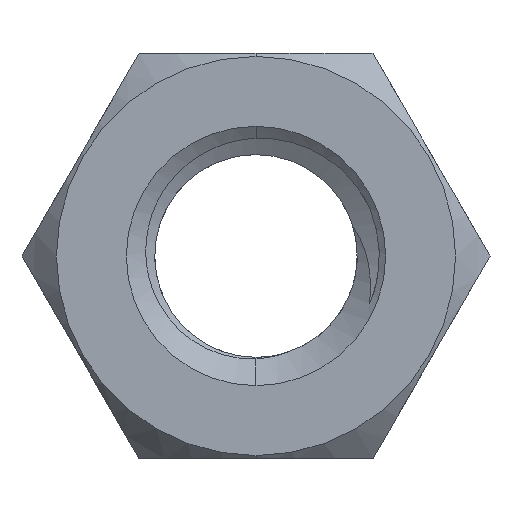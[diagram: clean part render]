
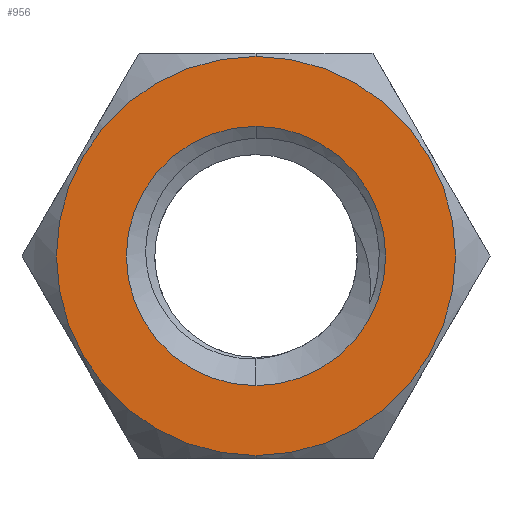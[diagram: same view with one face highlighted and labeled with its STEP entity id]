
A CAD part, front view. The second image highlights one B-rep face of the part: STEP entity #956.
In plain terms, the highlighted planar face has unit normal (0, -1, 0).
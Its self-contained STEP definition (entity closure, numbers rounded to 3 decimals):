
#57 = DIRECTION ( 'NONE',  ( 0., -1., 0. ) ) ;
#74 = VERTEX_POINT ( 'NONE', #1634 ) ;
#116 = EDGE_CURVE ( 'NONE', #402, #2313, #1568, .T. ) ;
#333 = FACE_BOUND ( 'NONE', #530, .T. ) ;
#372 = VERTEX_POINT ( 'NONE', #866 ) ;
#402 = VERTEX_POINT ( 'NONE', #1031 ) ;
#426 = EDGE_CURVE ( 'NONE', #372, #74, #1876, .T. ) ;
#457 = CARTESIAN_POINT ( 'NONE',  ( 0., -2.5, 4.924 ) ) ;
#530 = EDGE_LOOP ( 'NONE', ( #1965, #677 ) ) ;
#649 = CIRCLE ( 'NONE', #1911, 4.924 ) ;
#677 = ORIENTED_EDGE ( 'NONE', *, *, #426, .F. ) ;
#838 = CIRCLE ( 'NONE', #986, 3.2 ) ;
#866 = CARTESIAN_POINT ( 'NONE',  ( 0., -2.5, -3.2 ) ) ;
#909 = DIRECTION ( 'NONE',  ( 0., -1., 0. ) ) ;
#913 = CARTESIAN_POINT ( 'NONE',  ( 0., -2.5, 0. ) ) ;
#956 = ADVANCED_FACE ( 'NONE', ( #333, #1030 ), #1735, .F. ) ;
#986 = AXIS2_PLACEMENT_3D ( 'NONE', #913, #1994, #2168 ) ;
#1017 = DIRECTION ( 'NONE',  ( 0., 0., 1. ) ) ;
#1030 = FACE_OUTER_BOUND ( 'NONE', #1332, .T. ) ;
#1031 = CARTESIAN_POINT ( 'NONE',  ( 0., -2.5, -4.924 ) ) ;
#1039 = CARTESIAN_POINT ( 'NONE',  ( 0., -2.5, 0. ) ) ;
#1069 = ORIENTED_EDGE ( 'NONE', *, *, #2005, .T. ) ;
#1174 = AXIS2_PLACEMENT_3D ( 'NONE', #1039, #1569, #1017 ) ;
#1329 = CARTESIAN_POINT ( 'NONE',  ( 0., -2.5, 0. ) ) ;
#1332 = EDGE_LOOP ( 'NONE', ( #1069, #1474 ) ) ;
#1455 = DIRECTION ( 'NONE',  ( 0., 0., -1. ) ) ;
#1474 = ORIENTED_EDGE ( 'NONE', *, *, #116, .T. ) ;
#1561 = DIRECTION ( 'NONE',  ( 0., -1., 0. ) ) ;
#1568 = CIRCLE ( 'NONE', #1734, 4.924 ) ;
#1569 = DIRECTION ( 'NONE',  ( 0., 1., 0. ) ) ;
#1576 = EDGE_CURVE ( 'NONE', #74, #372, #838, .T. ) ;
#1634 = CARTESIAN_POINT ( 'NONE',  ( 0., -2.5, 3.2 ) ) ;
#1648 = AXIS2_PLACEMENT_3D ( 'NONE', #1738, #1561, #2098 ) ;
#1734 = AXIS2_PLACEMENT_3D ( 'NONE', #2227, #909, #2031 ) ;
#1735 = PLANE ( 'NONE',  #1174 ) ;
#1738 = CARTESIAN_POINT ( 'NONE',  ( 0., -2.5, 0. ) ) ;
#1876 = CIRCLE ( 'NONE', #1648, 3.2 ) ;
#1911 = AXIS2_PLACEMENT_3D ( 'NONE', #1329, #57, #1455 ) ;
#1965 = ORIENTED_EDGE ( 'NONE', *, *, #1576, .F. ) ;
#1994 = DIRECTION ( 'NONE',  ( 0., -1., 0. ) ) ;
#2005 = EDGE_CURVE ( 'NONE', #2313, #402, #649, .T. ) ;
#2031 = DIRECTION ( 'NONE',  ( 0., 0., -1. ) ) ;
#2098 = DIRECTION ( 'NONE',  ( 0., 0., -1. ) ) ;
#2168 = DIRECTION ( 'NONE',  ( 0., 0., -1. ) ) ;
#2227 = CARTESIAN_POINT ( 'NONE',  ( 0., -2.5, 0. ) ) ;
#2313 = VERTEX_POINT ( 'NONE', #457 ) ;
